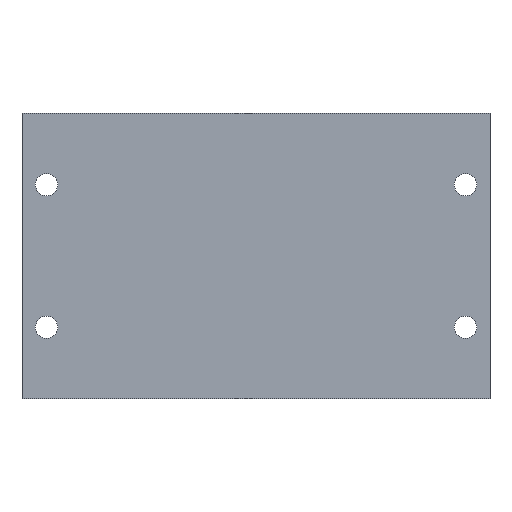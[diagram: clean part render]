
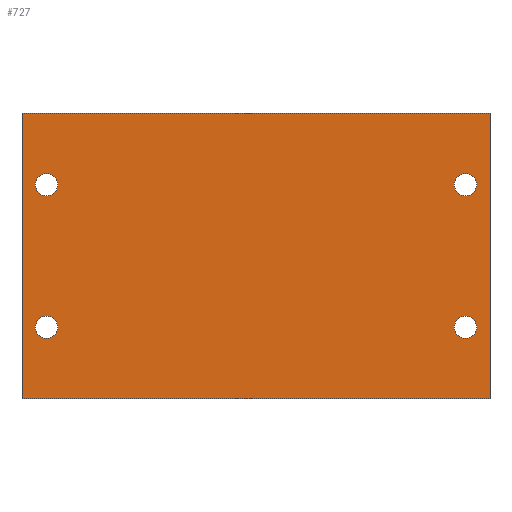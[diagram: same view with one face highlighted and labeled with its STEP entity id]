
A CAD part, left-side view. The second image highlights one B-rep face of the part: STEP entity #727.
In plain terms, the highlighted planar face has unit normal (-1, 0, 0).
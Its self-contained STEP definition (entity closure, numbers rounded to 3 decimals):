
#31 = EDGE_LOOP ( 'NONE', ( #931, #1946 ) ) ;
#36 = CARTESIAN_POINT ( 'NONE',  ( 0., 5.5, 45.5 ) ) ;
#38 = VERTEX_POINT ( 'NONE', #659 ) ;
#45 = EDGE_CURVE ( 'NONE', #1331, #1843, #586, .T. ) ;
#63 = EDGE_LOOP ( 'NONE', ( #2444, #540 ) ) ;
#91 = DIRECTION ( 'NONE',  ( 0., 0., -1. ) ) ;
#94 = DIRECTION ( 'NONE',  ( 0., 0., -1. ) ) ;
#114 = VERTEX_POINT ( 'NONE', #1513 ) ;
#118 = EDGE_CURVE ( 'NONE', #114, #406, #1193, .T. ) ;
#156 = DIRECTION ( 'NONE',  ( 0., 0., -1. ) ) ;
#170 = ORIENTED_EDGE ( 'NONE', *, *, #999, .F. ) ;
#174 = AXIS2_PLACEMENT_3D ( 'NONE', #2456, #2429, #2365 ) ;
#177 = ORIENTED_EDGE ( 'NONE', *, *, #196, .T. ) ;
#196 = EDGE_CURVE ( 'NONE', #1390, #614, #1165, .T. ) ;
#259 = CARTESIAN_POINT ( 'NONE',  ( 0., 0., 64. ) ) ;
#284 = EDGE_CURVE ( 'NONE', #406, #114, #1663, .T. ) ;
#298 = DIRECTION ( 'NONE',  ( 0., 0., -1. ) ) ;
#307 = AXIS2_PLACEMENT_3D ( 'NONE', #1170, #337, #361 ) ;
#328 = CIRCLE ( 'NONE', #1623, 2.5 ) ;
#337 = DIRECTION ( 'NONE',  ( 1., 0., 0. ) ) ;
#353 = CARTESIAN_POINT ( 'NONE',  ( 0., 105., 64. ) ) ;
#359 = PLANE ( 'NONE',  #307 ) ;
#361 = DIRECTION ( 'NONE',  ( 0., 0., -1. ) ) ;
#379 = ORIENTED_EDGE ( 'NONE', *, *, #2166, .F. ) ;
#406 = VERTEX_POINT ( 'NONE', #1554 ) ;
#408 = VERTEX_POINT ( 'NONE', #353 ) ;
#412 = ORIENTED_EDGE ( 'NONE', *, *, #1879, .T. ) ;
#448 = VECTOR ( 'NONE', #1004, 1000. ) ;
#489 = DIRECTION ( 'NONE',  ( 0., 0., -1. ) ) ;
#496 = FACE_BOUND ( 'NONE', #31, .T. ) ;
#528 = CARTESIAN_POINT ( 'NONE',  ( 0., 105., 0. ) ) ;
#530 = AXIS2_PLACEMENT_3D ( 'NONE', #748, #2383, #94 ) ;
#537 = CARTESIAN_POINT ( 'NONE',  ( 0., 5.5, 48. ) ) ;
#540 = ORIENTED_EDGE ( 'NONE', *, *, #1075, .T. ) ;
#577 = VERTEX_POINT ( 'NONE', #811 ) ;
#586 = CIRCLE ( 'NONE', #1198, 2.5 ) ;
#595 = CIRCLE ( 'NONE', #1848, 2.5 ) ;
#612 = CARTESIAN_POINT ( 'NONE',  ( 0., 5.5, 18.5 ) ) ;
#614 = VERTEX_POINT ( 'NONE', #983 ) ;
#659 = CARTESIAN_POINT ( 'NONE',  ( 0., 99.5, 50.5 ) ) ;
#727 = ADVANCED_FACE ( 'NONE', ( #1320, #496, #2359, #1903, #1044 ), #359, .F. ) ;
#744 = AXIS2_PLACEMENT_3D ( 'NONE', #2124, #1045, #1224 ) ;
#748 = CARTESIAN_POINT ( 'NONE',  ( 0., 99.5, 16. ) ) ;
#811 = CARTESIAN_POINT ( 'NONE',  ( 0., 0., 64. ) ) ;
#830 = VERTEX_POINT ( 'NONE', #612 ) ;
#841 = CARTESIAN_POINT ( 'NONE',  ( 0., 99.5, 45.5 ) ) ;
#878 = LINE ( 'NONE', #259, #1989 ) ;
#931 = ORIENTED_EDGE ( 'NONE', *, *, #1520, .T. ) ;
#983 = CARTESIAN_POINT ( 'NONE',  ( 0., 0., 0. ) ) ;
#999 = EDGE_CURVE ( 'NONE', #408, #577, #1088, .T. ) ;
#1004 = DIRECTION ( 'NONE',  ( 0., -1., 0. ) ) ;
#1044 = FACE_OUTER_BOUND ( 'NONE', #2128, .T. ) ;
#1045 = DIRECTION ( 'NONE',  ( 1., 0., 0. ) ) ;
#1049 = CIRCLE ( 'NONE', #174, 2.5 ) ;
#1063 = ORIENTED_EDGE ( 'NONE', *, *, #118, .T. ) ;
#1075 = EDGE_CURVE ( 'NONE', #830, #1460, #328, .T. ) ;
#1088 = LINE ( 'NONE', #1428, #2239 ) ;
#1122 = DIRECTION ( 'NONE',  ( 0., 0., -1. ) ) ;
#1136 = CARTESIAN_POINT ( 'NONE',  ( 0., 5.5, 48. ) ) ;
#1165 = LINE ( 'NONE', #1733, #448 ) ;
#1170 = CARTESIAN_POINT ( 'NONE',  ( 0., 0., 64. ) ) ;
#1181 = DIRECTION ( 'NONE',  ( 0., -1., 0. ) ) ;
#1193 = CIRCLE ( 'NONE', #1739, 2.5 ) ;
#1198 = AXIS2_PLACEMENT_3D ( 'NONE', #1136, #2374, #298 ) ;
#1215 = ORIENTED_EDGE ( 'NONE', *, *, #284, .T. ) ;
#1224 = DIRECTION ( 'NONE',  ( 0., 0., -1. ) ) ;
#1239 = CIRCLE ( 'NONE', #1926, 2.5 ) ;
#1241 = CIRCLE ( 'NONE', #744, 2.5 ) ;
#1270 = VECTOR ( 'NONE', #489, 1000. ) ;
#1320 = FACE_BOUND ( 'NONE', #2443, .T. ) ;
#1331 = VERTEX_POINT ( 'NONE', #1574 ) ;
#1358 = DIRECTION ( 'NONE',  ( 1., 0., 0. ) ) ;
#1361 = DIRECTION ( 'NONE',  ( 1., 0., 0. ) ) ;
#1384 = EDGE_CURVE ( 'NONE', #38, #1426, #1239, .T. ) ;
#1390 = VERTEX_POINT ( 'NONE', #528 ) ;
#1391 = ORIENTED_EDGE ( 'NONE', *, *, #45, .T. ) ;
#1426 = VERTEX_POINT ( 'NONE', #841 ) ;
#1428 = CARTESIAN_POINT ( 'NONE',  ( 0., 0., 64. ) ) ;
#1460 = VERTEX_POINT ( 'NONE', #1618 ) ;
#1513 = CARTESIAN_POINT ( 'NONE',  ( 0., 99.5, 13.5 ) ) ;
#1520 = EDGE_CURVE ( 'NONE', #1426, #38, #1049, .T. ) ;
#1554 = CARTESIAN_POINT ( 'NONE',  ( 0., 99.5, 18.5 ) ) ;
#1574 = CARTESIAN_POINT ( 'NONE',  ( 0., 5.5, 50.5 ) ) ;
#1618 = CARTESIAN_POINT ( 'NONE',  ( 0., 5.5, 13.5 ) ) ;
#1623 = AXIS2_PLACEMENT_3D ( 'NONE', #2178, #1358, #2135 ) ;
#1663 = CIRCLE ( 'NONE', #530, 2.5 ) ;
#1697 = LINE ( 'NONE', #2358, #1270 ) ;
#1733 = CARTESIAN_POINT ( 'NONE',  ( 0., 0., 0. ) ) ;
#1739 = AXIS2_PLACEMENT_3D ( 'NONE', #2016, #2340, #1871 ) ;
#1843 = VERTEX_POINT ( 'NONE', #36 ) ;
#1848 = AXIS2_PLACEMENT_3D ( 'NONE', #537, #1361, #1122 ) ;
#1871 = DIRECTION ( 'NONE',  ( 0., 0., -1. ) ) ;
#1879 = EDGE_CURVE ( 'NONE', #1843, #1331, #595, .T. ) ;
#1903 = FACE_BOUND ( 'NONE', #63, .T. ) ;
#1926 = AXIS2_PLACEMENT_3D ( 'NONE', #2437, #2459, #156 ) ;
#1946 = ORIENTED_EDGE ( 'NONE', *, *, #1384, .T. ) ;
#1975 = EDGE_LOOP ( 'NONE', ( #1063, #1215 ) ) ;
#1989 = VECTOR ( 'NONE', #91, 1000. ) ;
#2016 = CARTESIAN_POINT ( 'NONE',  ( 0., 99.5, 16. ) ) ;
#2025 = ORIENTED_EDGE ( 'NONE', *, *, #2241, .T. ) ;
#2124 = CARTESIAN_POINT ( 'NONE',  ( 0., 5.5, 16. ) ) ;
#2128 = EDGE_LOOP ( 'NONE', ( #177, #379, #170, #2025 ) ) ;
#2135 = DIRECTION ( 'NONE',  ( 0., 0., -1. ) ) ;
#2166 = EDGE_CURVE ( 'NONE', #577, #614, #878, .T. ) ;
#2178 = CARTESIAN_POINT ( 'NONE',  ( 0., 5.5, 16. ) ) ;
#2239 = VECTOR ( 'NONE', #1181, 1000. ) ;
#2241 = EDGE_CURVE ( 'NONE', #408, #1390, #1697, .T. ) ;
#2340 = DIRECTION ( 'NONE',  ( 1., 0., 0. ) ) ;
#2358 = CARTESIAN_POINT ( 'NONE',  ( 0., 105., 64. ) ) ;
#2359 = FACE_BOUND ( 'NONE', #1975, .T. ) ;
#2365 = DIRECTION ( 'NONE',  ( 0., 0., -1. ) ) ;
#2374 = DIRECTION ( 'NONE',  ( 1., 0., 0. ) ) ;
#2383 = DIRECTION ( 'NONE',  ( 1., 0., 0. ) ) ;
#2429 = DIRECTION ( 'NONE',  ( 1., 0., 0. ) ) ;
#2437 = CARTESIAN_POINT ( 'NONE',  ( 0., 99.5, 48. ) ) ;
#2443 = EDGE_LOOP ( 'NONE', ( #412, #1391 ) ) ;
#2444 = ORIENTED_EDGE ( 'NONE', *, *, #2468, .T. ) ;
#2456 = CARTESIAN_POINT ( 'NONE',  ( 0., 99.5, 48. ) ) ;
#2459 = DIRECTION ( 'NONE',  ( 1., 0., 0. ) ) ;
#2468 = EDGE_CURVE ( 'NONE', #1460, #830, #1241, .T. ) ;
